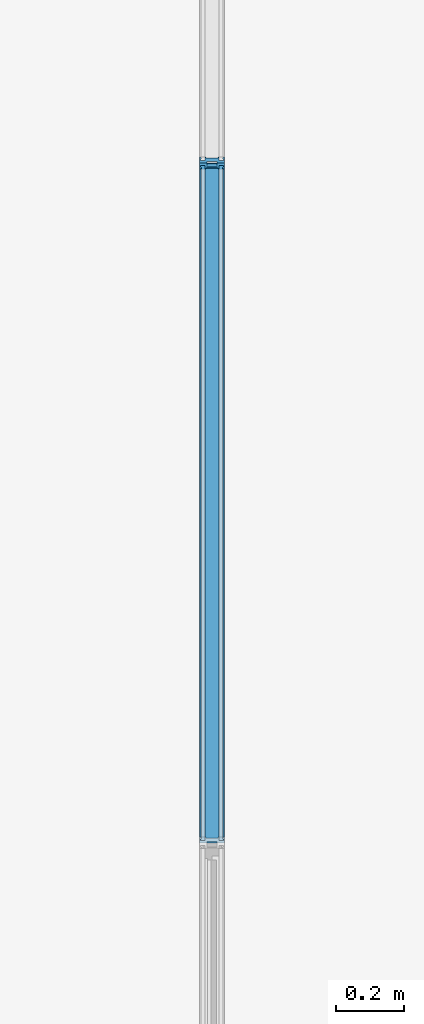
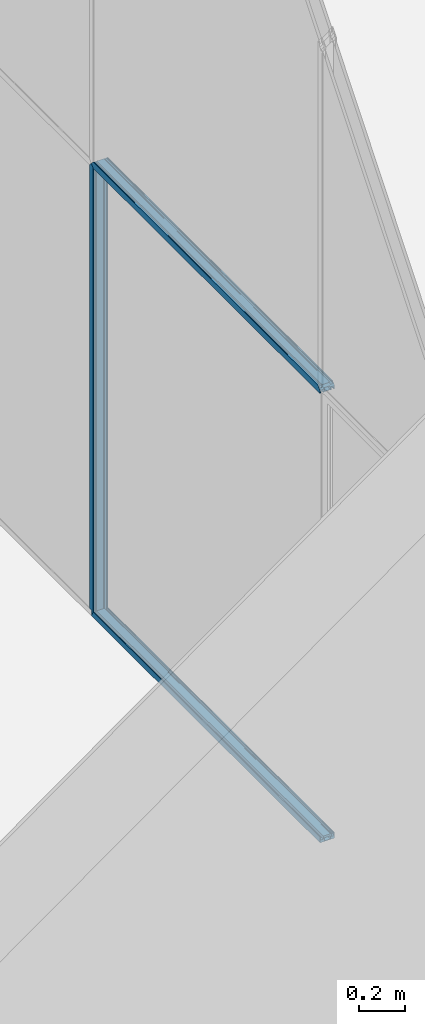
# One storey, part 70 of 246: 3 members, 1 element without a shape of its own.
"""IFC2X3 building model written with IfcOpenShell, lengths in millimetres."""

from ifc_helpers import new_model, entity, si_unit, converted_unit, derived_unit, money_unit, direction, frame, origin_with_axes, place, context, subcontext, project, spatial, faceted_brep, material, material_list, type_object, element, aggregate, save


model = new_model("IFC2X3")

# Units and contexts
model_context = context("Model", 3, precision=0.01, world=origin_with_axes(), true_north=direction((0.0, 1.0)))
body_context = subcontext(model_context, "Body", "Model", "MODEL_VIEW")
ifc_project = project(units=[si_unit("LENGTHUNIT", "METRE", prefix="MILLI"), si_unit("AREAUNIT", "SQUARE_METRE"), si_unit("VOLUMEUNIT", "CUBIC_METRE"), converted_unit("PLANEANGLEUNIT", "DEGREE", entity("IfcPlaneAngleMeasure", 0.0174532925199), si_unit("PLANEANGLEUNIT", "RADIAN"), dimensions=[0, 0, 0, 0, 0, 0, 0]), si_unit("SOLIDANGLEUNIT", "STERADIAN"), money_unit("EUR"), converted_unit("TIMEUNIT", "Year", entity("IfcTimeMeasure", 31556926.0), si_unit("TIMEUNIT", "SECOND"), dimensions=[0, 0, 1, 0, 0, 0, 0]), si_unit("MASSUNIT", "GRAM", prefix="KILO"), si_unit("THERMODYNAMICTEMPERATUREUNIT", "DEGREE_CELSIUS"), si_unit("LUMINOUSINTENSITYUNIT", "LUMEN"), si_unit("ENERGYUNIT", "JOULE", prefix="MEGA"), derived_unit("THERMALCONDUCTANCEUNIT", [(si_unit("POWERUNIT", "WATT"), 1), (si_unit("LENGTHUNIT", "METRE"), -1), (si_unit("THERMODYNAMICTEMPERATUREUNIT", "KELVIN"), -1)]), derived_unit("SPECIFICHEATCAPACITYUNIT", [(si_unit("ENERGYUNIT", "JOULE"), 1), (si_unit("MASSUNIT", "GRAM", prefix="KILO"), -1), (si_unit("THERMODYNAMICTEMPERATUREUNIT", "KELVIN"), -1)]), derived_unit("MASSDENSITYUNIT", [(si_unit("MASSUNIT", "GRAM", prefix="KILO"), 1), (si_unit("VOLUMEUNIT", "CUBIC_METRE"), -1)])], contexts=[model_context])

# Site, building, storey
site_placement = place(None, origin_with_axes())
site = spatial("IfcSite", under=ifc_project, at=site_placement, Name="L.Koidula tn 11b", CompositionType="ELEMENT")
building_placement = place(site_placement, origin_with_axes())
building = spatial("IfcBuilding", under=site, at=building_placement, Name="Rakvere Riigigümnaasium", CompositionType="ELEMENT")
storey_placement = place(building_placement, origin_with_axes())
storey = spatial("IfcBuildingStorey", under=building, at=storey_placement, Name="1.korrus 0,00", CompositionType="ELEMENT", Elevation=0.0)

# Curtain wall, members
curtain_wall_type = type_object("IfcCurtainWallType", Name="Curtain Wall Type", PredefinedType="NOTDEFINED")
curtain_wall_placement = place(storey_placement, frame((32835.0202258, 67589.2016838, 0.0), z_axis=(0.0, 0.0, 1.0), x_axis=(1.0, 0.0, 0.0)))
curtain_wall = element("IfcCurtainWall", 1, at=curtain_wall_placement, inside=storey, type_object=curtain_wall_type, Name="SKLF-02")
ifc_material_1 = material(Name="Klaasvill")
ifc_material_2 = material(Name="Teras RAL7012")
ifc_material_list = material_list([ifc_material_1, ifc_material_2])
member_type_1 = type_object("IfcMemberType", Name="Siseklaasfassaad-Servaprofiil-Doubleline30 30 x 42", PredefinedType="MULLION")
member_1_placement = place(curtain_wall_placement, frame((0.0, -2981.25, 0.0), z_axis=(0.0, -1.0, 0.0), x_axis=(0.0, 0.0, 1.0)))
member_1 = element("IfcMember", 2, at=member_1_placement, type_object=member_type_1, material=ifc_material_list, Name="Frame-Siseklaasf-167", ObjectType="MULLION", context=body_context, shape_type="Brep", body=[
    faceted_brep([(13.8499999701, 15.000000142, 7.84833717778), (13.8499999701, 29.0161444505, 7.84833717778), (13.8499999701, 29.0161444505, 1987.5), (13.8499999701, 15.000000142, 1987.5), (7.49999990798, 29.0161444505, 4.25000203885), (7.49999990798, 15.000000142, 4.25000203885), (7.49999990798, 29.0161444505, 1987.5), (7.49999990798, 15.000000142, 1987.5)], [[[0, 1, 2, 3]], [[4, 1, 0, 5]], [[1, 4, 6, 2]], [[3, 2, 6, 7]], [[5, 0, 3, 7]], [[4, 5, 7, 6]]]),
    faceted_brep([(28.4955493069, 27.0307503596, 16.1474858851), (28.7655837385, 28.0385325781, 16.3005054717), (28.7655837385, 28.0385325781, 1987.5), (28.4955493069, 27.0307503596, 1987.5), (28.5126239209, 29.0161444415, 16.1571615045), (27.75780152, 26.2930025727, 15.7294286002), (26.7500193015, 26.0229681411, 15.1583517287), (25.742237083, 26.2930025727, 14.5872748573), (25.004489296, 27.0307503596, 14.1692175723), (24.987414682, 29.0161444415, 14.159541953), (28.5126239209, 29.0161444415, 1987.5), (24.987414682, 29.0161444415, 1987.5), (25.004489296, 27.0307503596, 1987.5), (25.742237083, 26.2930025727, 1987.5), (26.7500193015, 26.0229681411, 1987.5), (27.75780152, 26.2930025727, 1987.5)], [[[0, 1, 2, 3]], [[4, 1, 0, 5, 6, 7, 8, 9]], [[1, 4, 10, 2]], [[3, 2, 10, 11, 12, 13, 14, 15]], [[5, 0, 3, 15]], [[6, 5, 15, 14]], [[7, 6, 14, 13]], [[8, 7, 13, 12]], [[9, 8, 12, 11]], [[4, 9, 11, 10]]]),
    faceted_brep([(13.8499999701, -39.0161445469, 7.84833717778), (13.8499999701, -24.9999997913, 7.84833717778), (13.8499999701, -24.9999997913, 1987.5), (13.8499999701, -39.0161445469, 1987.5), (7.49999990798, -24.9999997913, 4.25000203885), (7.49999990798, -39.0161445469, 4.25000203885), (7.49999990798, -24.9999997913, 1987.5), (7.49999990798, -39.0161445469, 1987.5)], [[[0, 1, 2, 3]], [[4, 1, 0, 5]], [[1, 4, 6, 2]], [[7, 3, 2, 6]], [[5, 0, 3, 7]], [[4, 5, 7, 6]]]),
    faceted_brep([(28.5126239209, -39.0161444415, 16.1571615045), (28.7655837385, -38.0385325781, 16.3005054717), (28.7655837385, -38.0385325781, 1987.5), (28.5126239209, -39.0161444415, 1987.5), (28.4955493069, -37.0307503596, 16.1474858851), (24.987414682, -39.0161444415, 14.159541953), (25.004489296, -37.0307503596, 14.1692175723), (25.742237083, -36.2930025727, 14.5872748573), (26.7500193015, -36.0229681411, 15.1583517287), (27.75780152, -36.2930025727, 15.7294286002), (28.4955493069, -37.0307503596, 1987.5), (27.75780152, -36.2930025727, 1987.5), (26.7500193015, -36.0229681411, 1987.5), (25.742237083, -36.2930025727, 1987.5), (25.004489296, -37.0307503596, 1987.5), (24.987414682, -39.0161444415, 1987.5)], [[[0, 1, 2, 3]], [[4, 1, 0, 5, 6, 7, 8, 9]], [[1, 4, 10, 2]], [[11, 12, 13, 14, 15, 3, 2, 10]], [[5, 0, 3, 15]], [[6, 5, 15, 14]], [[7, 6, 14, 13]], [[8, 7, 13, 12]], [[9, 8, 12, 11]], [[4, 9, 11, 10]]]),
    faceted_brep([(1.9999999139, 10.0000001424, 1.13333384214), (18.7999996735, 10.0000001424, 10.6533383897), (18.7999996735, 10.0000001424, 1987.5), (1.9999999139, 10.0000001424, 1987.5), (0.0, 12.0000000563, 0.0), (29.5999996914, 12.0000000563, 16.7733414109), (29.5999996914, -22.0000000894, 16.7733414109), (0.0, -22.0000000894, 0.0), (18.7999996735, -20.0000001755, 10.6533383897), (1.9999999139, -20.0000001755, 1.13333384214), (18.7999996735, -20.0000001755, 1987.5), (29.5999996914, -22.0000000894, 1987.5), (29.5999996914, 12.0000000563, 1987.5), (0.0, 12.0000000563, 1987.5), (0.0, -22.0000000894, 1987.5), (1.9999999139, -20.0000001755, 1987.5)], [[[0, 1, 2, 3]], [[4, 5, 6, 7], [8, 1, 0, 9]], [[1, 8, 10, 2]], [[11, 12, 13, 14], [2, 10, 15, 3]], [[9, 0, 3, 15]], [[5, 4, 13, 12]], [[6, 5, 12, 11]], [[7, 6, 11, 14]], [[4, 7, 14, 13]], [[8, 9, 15, 10]]]),
    faceted_brep([(30.0000193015, 29.0161444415, 17.0000193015), (30.0000193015, 32.0, 17.0000193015), (30.0000193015, 32.0, 1987.5), (30.0000193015, 29.0161444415, 1987.5), (0.0, 32.0, 0.0), (28.5126239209, 29.0161444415, 16.1571615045), (24.987414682, 29.0161444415, 14.159541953), (13.8499999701, 29.0161444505, 7.84833717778), (7.49999999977, 29.0161444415, 4.25000209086), (7.49999999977, 15.0, 4.25000209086), (13.8499999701, 15.000000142, 7.84833717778), (30.0000193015, 15.0, 17.0000193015), (30.0000193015, 12.0, 17.0000193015), (29.5999996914, 12.0000000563, 16.7733414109), (0.0, 12.0, 0.0), (0.0, 32.0, 1987.5), (0.0, 12.0, 1987.5), (29.5999996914, 12.0000000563, 1987.5), (30.0000193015, 12.0, 1987.5), (30.0000193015, 15.0, 1987.5), (13.8499999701, 15.000000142, 1987.5), (7.49999999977, 15.0, 1987.5), (7.49999999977, 29.0161444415, 1987.5), (13.8499999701, 29.0161444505, 1987.5), (24.987414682, 29.0161444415, 1987.5), (28.5126239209, 29.0161444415, 1987.5)], [[[0, 1, 2, 3]], [[4, 1, 0, 5, 6, 7, 8, 9, 10, 11, 12, 13, 14]], [[1, 4, 15, 2]], [[3, 2, 15, 16, 17, 18, 19, 20, 21, 22, 23, 24, 25]], [[5, 0, 3, 25]], [[6, 5, 25, 24]], [[7, 6, 24, 23]], [[8, 7, 23, 22]], [[9, 8, 22, 21]], [[10, 9, 21, 20]], [[11, 10, 20, 19]], [[12, 11, 19, 18]], [[13, 12, 18, 17]], [[14, 13, 17, 16]], [[4, 14, 16, 15]]]),
    faceted_brep([(30.0000193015, -25.0, 17.0000193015), (30.0000193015, -22.0, 17.0000193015), (30.0000193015, -22.0, 1987.5), (30.0000193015, -25.0, 1987.5), (29.5999996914, -22.0000000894, 16.7733414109), (13.8499999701, -24.9999997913, 7.84833717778), (7.49999999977, -25.0, 4.25000209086), (7.49999999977, -39.0161444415, 4.25000209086), (13.8499999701, -39.0161445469, 7.84833717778), (24.987414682, -39.0161444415, 14.159541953), (28.5126239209, -39.0161444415, 16.1571615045), (30.0000193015, -39.0161444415, 17.0000193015), (30.0000193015, -42.0, 17.0000193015), (0.0, -42.0, 0.0), (0.0, -22.0, 0.0), (29.5999996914, -22.0000000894, 1987.5), (0.0, -22.0, 1987.5), (0.0, -42.0, 1987.5), (30.0000193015, -42.0, 1987.5), (30.0000193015, -39.0161444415, 1987.5), (28.5126239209, -39.0161444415, 1987.5), (24.987414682, -39.0161444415, 1987.5), (13.8499999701, -39.0161445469, 1987.5), (7.49999999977, -39.0161444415, 1987.5), (7.49999999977, -25.0, 1987.5), (13.8499999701, -24.9999997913, 1987.5)], [[[0, 1, 2, 3]], [[4, 1, 0, 5, 6, 7, 8, 9, 10, 11, 12, 13, 14]], [[1, 4, 15, 2]], [[3, 2, 15, 16, 17, 18, 19, 20, 21, 22, 23, 24, 25]], [[5, 0, 3, 25]], [[6, 5, 25, 24]], [[7, 6, 24, 23]], [[8, 7, 23, 22]], [[9, 8, 22, 21]], [[10, 9, 21, 20]], [[11, 10, 20, 19]], [[12, 11, 19, 18]], [[13, 12, 18, 17]], [[14, 13, 17, 16]], [[4, 14, 16, 15]]]),
])
member_type_2 = type_object("IfcMemberType", Name="Siseklaasfassaad-Vaheprofiil-Doubleline30 34 x 42", PredefinedType="MULLION")
member_2_placement = place(curtain_wall_placement, frame((0.0, -2981.25, 0.0), z_axis=(0.0, 0.0, 1.0), x_axis=(0.0, 1.0, 0.0)))
member_2 = element("IfcMember", 3, at=member_2_placement, type_object=member_type_2, material=ifc_material_list, Name="Frame-Siseklaasf-065", ObjectType="MULLION", context=body_context, shape_type="Brep", body=[
    faceted_brep([(15.4955493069, 27.0307503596, 30.0000193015), (15.7655837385, 28.0385325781, 30.0000193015), (15.7655837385, 28.0385325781, 2384.23441626), (15.4955493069, 27.0307503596, 2384.50445069), (15.5126239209, 29.0161444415, 30.0000193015), (14.75780152, 26.2930025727, 30.0000193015), (13.7500193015, 26.0229681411, 30.0000193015), (12.742237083, 26.2930025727, 30.0000193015), (12.004489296, 27.0307503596, 30.0000193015), (11.987414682, 29.0161444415, 30.0000193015), (15.5126239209, 29.0161444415, 2384.48737608), (12.742237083, 26.2930025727, 2387.25776292), (13.7500193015, 26.0229681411, 2386.2499807), (14.75780152, 26.2930025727, 2385.24219848), (11.987414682, 29.0161444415, 2388.01258532), (12.004489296, 27.0307503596, 2387.9955107)], [[[0, 1, 2, 3]], [[4, 1, 0, 5, 6, 7, 8, 9]], [[1, 4, 10, 2]], [[11, 12, 13, 3, 2, 10, 14, 15]], [[5, 0, 3, 13]], [[6, 5, 13, 12]], [[7, 6, 12, 11]], [[8, 7, 11, 15]], [[9, 8, 15, 14]], [[4, 9, 14, 10]]]),
    faceted_brep([(11.987414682, -39.0161444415, 30.0000193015), (15.5126239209, -39.0161444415, 30.0000193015), (15.5126239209, -39.0161444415, 2384.48737608), (11.987414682, -39.0161444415, 2388.01258532), (15.4955493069, -37.0307503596, 30.0000193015), (11.7344548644, -38.0385325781, 30.0000193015), (12.004489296, -37.0307503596, 30.0000193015), (12.742237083, -36.2930025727, 30.0000193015), (13.7500193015, -36.0229681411, 30.0000193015), (14.75780152, -36.2930025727, 30.0000193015), (15.4955493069, -37.0307503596, 2384.50445069), (12.742237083, -36.2930025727, 2387.25776292), (12.004489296, -37.0307503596, 2387.9955107), (11.7344548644, -38.0385325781, 2388.26554514), (14.75780152, -36.2930025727, 2385.24219848), (13.7500193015, -36.0229681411, 2386.2499807)], [[[0, 1, 2, 3]], [[4, 1, 0, 5, 6, 7, 8, 9]], [[1, 4, 10, 2]], [[11, 12, 13, 3, 2, 10, 14, 15]], [[5, 0, 3, 13]], [[6, 5, 13, 12]], [[7, 6, 12, 11]], [[8, 7, 11, 15]], [[9, 8, 15, 14]], [[4, 9, 14, 10]]]),
    faceted_brep([(-12.004489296, 27.0307503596, 21.1843824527), (-11.7344548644, 28.0385325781, 20.7078513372), (-11.7344548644, 28.0385325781, 2388.26554514), (-12.004489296, 27.0307503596, 2387.9955107), (-11.987414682, 29.0161444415, 21.1542507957), (-12.742237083, 26.2930025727, 22.4862896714), (-13.7500193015, 26.0229681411, 24.2647280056), (-14.75780152, 26.2930025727, 26.0431663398), (-15.4955493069, 27.0307503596, 27.3450735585), (-15.7655837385, 28.0385325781, 27.8216046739), (-11.987414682, 29.0161444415, 2388.01258532), (-14.75780152, 26.2930025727, 2385.24219848), (-13.7500193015, 26.0229681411, 2386.2499807), (-12.742237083, 26.2930025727, 2387.25776292), (-15.7655837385, 28.0385325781, 2384.23441626), (-15.4955493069, 27.0307503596, 2384.50445069)], [[[0, 1, 2, 3]], [[4, 1, 0, 5, 6, 7, 8, 9]], [[1, 4, 10, 2]], [[11, 12, 13, 3, 2, 10, 14, 15]], [[5, 0, 3, 13]], [[6, 5, 13, 12]], [[7, 6, 12, 11]], [[8, 7, 11, 15]], [[9, 8, 15, 14]], [[4, 9, 14, 10]]]),
    faceted_brep([(-11.987414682, -39.0161444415, 21.1542507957), (-11.7344548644, -38.0385325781, 20.7078513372), (-11.7344548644, -38.0385325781, 2388.26554514), (-11.987414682, -39.0161444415, 2388.01258532), (-12.004489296, -37.0307503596, 21.1843824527), (-15.5126239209, -39.0161444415, 27.3752052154), (-15.4955493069, -37.0307503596, 27.3450735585), (-14.75780152, -36.2930025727, 26.0431663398), (-13.7500193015, -36.0229681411, 24.2647280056), (-12.742237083, -36.2930025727, 22.4862896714), (-12.004489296, -37.0307503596, 2387.9955107), (-14.75780152, -36.2930025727, 2385.24219848), (-15.4955493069, -37.0307503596, 2384.50445069), (-15.5126239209, -39.0161444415, 2384.48737608), (-12.742237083, -36.2930025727, 2387.25776292), (-13.7500193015, -36.0229681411, 2386.2499807)], [[[0, 1, 2, 3]], [[4, 1, 0, 5, 6, 7, 8, 9]], [[1, 4, 10, 2]], [[11, 12, 13, 3, 2, 10, 14, 15]], [[5, 0, 3, 13]], [[6, 5, 13, 12]], [[7, 6, 12, 11]], [[8, 7, 11, 15]], [[9, 8, 15, 14]], [[4, 9, 14, 10]]]),
    faceted_brep([(0.0, 10.0000001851, 0.0), (0.0, 10.0000001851, 30.0000193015), (4.0000003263, 10.0000001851, 30.0000193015), (4.0000003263, 10.0000001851, 2395.99999967), (0.0, 10.0000001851, 2400.0), (-12.8000002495, 10.0000001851, 2387.19999975), (-12.8000002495, 10.0000001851, 22.588224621), (0.0, 12.0000001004, 0.0), (0.0, 12.0000001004, 30.0000193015), (14.8000003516, 12.0000001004, 30.0000193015), (14.8000003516, -22.0000000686, 30.0000193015), (0.0, -22.0000000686, 30.0000193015), (0.0, -20.0000001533, 30.0000193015), (4.0000003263, -20.0000001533, 30.0000193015), (4.0000003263, -20.0000001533, 2395.99999967), (0.0, -20.0000001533, 2400.0), (0.0, -22.0000000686, 2400.0), (14.8000003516, -22.0000000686, 2385.19999965), (14.8000003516, 12.0000001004, 2385.19999965), (0.0, 12.0000001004, 2400.0), (-12.8000002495, -20.0000001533, 2387.19999975), (-14.8000001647, 12.0000001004, 2385.19999984), (-14.8000001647, -22.0000000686, 2385.19999984), (-12.8000002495, -20.0000001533, 22.588224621), (-14.8000001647, 12.0000001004, 26.1176344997), (0.0, -20.0000001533, 0.0), (0.0, -22.0000000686, 0.0), (-14.8000001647, -22.0000000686, 26.1176344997)], [[[0, 1, 2, 3, 4, 5, 6]], [[7, 8, 1, 0]], [[8, 9, 10, 11, 12, 13, 2, 1]], [[2, 13, 14, 3]], [[14, 15, 16, 17, 18, 19, 4, 3]], [[20, 5, 4, 19, 21, 22, 16, 15]], [[23, 6, 5, 20]], [[24, 7, 0, 6, 23, 25, 26, 27]], [[7, 24, 21, 19, 8]], [[9, 8, 19, 18]], [[10, 9, 18, 17]], [[11, 10, 17, 16]], [[25, 12, 11, 26]], [[25, 23, 20, 15, 14, 13, 12]], [[24, 27, 22, 21]], [[26, 11, 16, 22, 27]]]),
    faceted_brep([(17.0000193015, 29.0161446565, 30.0000193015), (17.0000193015, 32.0000000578, 30.0000193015), (17.0000193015, 32.0000000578, 2382.9999807), (17.0000193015, 29.0161446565, 2382.9999807), (0.0, 32.0000000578, 30.0000193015), (15.5126239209, 29.0161444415, 30.0000193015), (11.987414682, 29.0161444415, 30.0000193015), (7.50000002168, 29.0161446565, 30.0000193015), (7.50000002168, 15.0000000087, 30.0000193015), (17.0000193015, 15.0000000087, 30.0000193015), (17.0000193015, 12.0, 30.0000193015), (14.8000003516, 12.0000001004, 30.0000193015), (0.0, 12.0, 30.0000193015), (0.0, 32.0000000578, 2400.0), (7.50000002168, 29.0161446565, 2392.49999998), (11.987414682, 29.0161444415, 2388.01258532), (15.5126239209, 29.0161444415, 2384.48737608), (0.0, 12.0, 2400.0), (14.8000003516, 12.0000001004, 2385.19999965), (17.0000193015, 12.0, 2382.9999807), (17.0000193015, 15.0000000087, 2382.9999807), (7.50000002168, 15.0000000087, 2392.49999998)], [[[0, 1, 2, 3]], [[4, 1, 0, 5, 6, 7, 8, 9, 10, 11, 12]], [[1, 4, 13, 2]], [[14, 15, 16, 3, 2, 13, 17, 18, 19, 20, 21]], [[5, 0, 3, 16]], [[6, 5, 16, 15]], [[7, 6, 15, 14]], [[8, 7, 14, 21]], [[9, 8, 21, 20]], [[10, 9, 20, 19]], [[11, 10, 19, 18]], [[12, 11, 18, 17]], [[4, 12, 17, 13]]]),
    faceted_brep([(17.0000193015, -24.9999999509, 30.0000193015), (17.0000193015, -21.9999999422, 30.0000193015), (17.0000193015, -21.9999999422, 2382.9999807), (17.0000193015, -24.9999999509, 2382.9999807), (14.8000003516, -22.0000000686, 30.0000193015), (7.50000002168, -24.9999999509, 30.0000193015), (7.50000002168, -39.0161445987, 30.0000193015), (11.987414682, -39.0161444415, 30.0000193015), (15.5126239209, -39.0161444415, 30.0000193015), (17.0000193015, -39.0161445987, 30.0000193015), (17.0000193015, -42.0, 30.0000193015), (0.0, -42.0, 30.0000193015), (0.0, -21.9999999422, 30.0000193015), (14.8000003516, -22.0000000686, 2385.19999965), (11.987414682, -39.0161444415, 2388.01258532), (7.50000002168, -39.0161445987, 2392.49999998), (7.50000002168, -24.9999999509, 2392.49999998), (0.0, -21.9999999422, 2400.0), (0.0, -42.0, 2400.0), (17.0000193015, -42.0, 2382.9999807), (17.0000193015, -39.0161445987, 2382.9999807), (15.5126239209, -39.0161444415, 2384.48737608)], [[[0, 1, 2, 3]], [[4, 1, 0, 5, 6, 7, 8, 9, 10, 11, 12]], [[1, 4, 13, 2]], [[14, 15, 16, 3, 2, 13, 17, 18, 19, 20, 21]], [[5, 0, 3, 16]], [[6, 5, 16, 15]], [[7, 6, 15, 14]], [[8, 7, 14, 21]], [[9, 8, 21, 20]], [[10, 9, 20, 19]], [[11, 10, 19, 18]], [[12, 11, 18, 17]], [[4, 12, 17, 13]]]),
    faceted_brep([(0.0, 12.0, 0.0), (0.0, 32.0, 0.0), (0.0, 32.0, 2400.0), (0.0, 12.0, 2400.0), (-17.0000193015, 32.0, 30.0000193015), (-14.8000001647, 12.0000001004, 26.1176344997), (-17.0000193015, 12.0, 30.0000193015), (-17.0000193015, 15.0, 30.0000193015), (-7.49999999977, 15.0, 13.2352876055), (-7.49999999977, 29.0161444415, 13.2352876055), (-11.987414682, 29.0161444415, 21.1542507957), (-15.5126239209, 29.0161444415, 27.3752052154), (-17.0000193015, 29.0161444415, 30.0000193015), (-17.0000193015, 32.0, 2382.9999807), (-17.0000193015, 12.0, 2382.9999807), (-14.8000001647, 12.0000001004, 2385.19999984), (-17.0000193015, 29.0161444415, 2382.9999807), (-15.5126239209, 29.0161444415, 2384.48737608), (-11.987414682, 29.0161444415, 2388.01258532), (-7.49999999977, 29.0161444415, 2392.5), (-7.49999999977, 15.0, 2392.5), (-17.0000193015, 15.0, 2382.9999807)], [[[0, 1, 2, 3]], [[4, 1, 0, 5, 6, 7, 8, 9, 10, 11, 12]], [[1, 4, 13, 2]], [[14, 15, 3, 2, 13, 16, 17, 18, 19, 20, 21]], [[5, 0, 3, 15]], [[6, 5, 15, 14]], [[7, 6, 14, 21]], [[8, 7, 21, 20]], [[9, 8, 20, 19]], [[10, 9, 19, 18]], [[11, 10, 18, 17]], [[12, 11, 17, 16]], [[4, 12, 16, 13]]]),
    faceted_brep([(0.0, -42.0, 0.0), (0.0, -22.0, 0.0), (0.0, -22.0, 2400.0), (0.0, -42.0, 2400.0), (-14.8000001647, -22.0000000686, 26.1176344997), (-17.0000193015, -42.0, 30.0000193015), (-17.0000193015, -39.0161444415, 30.0000193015), (-15.5126239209, -39.0161444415, 27.3752052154), (-11.987414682, -39.0161444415, 21.1542507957), (-7.49999999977, -39.0161444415, 13.2352876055), (-7.49999999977, -25.0, 13.2352876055), (-17.0000193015, -25.0, 30.0000193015), (-17.0000193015, -22.0, 30.0000193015), (-14.8000001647, -22.0000000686, 2385.19999984), (-17.0000193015, -39.0161444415, 2382.9999807), (-17.0000193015, -42.0, 2382.9999807), (-17.0000193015, -22.0, 2382.9999807), (-17.0000193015, -25.0, 2382.9999807), (-7.49999999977, -25.0, 2392.5), (-7.49999999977, -39.0161444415, 2392.5), (-11.987414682, -39.0161444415, 2388.01258532), (-15.5126239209, -39.0161444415, 2384.48737608)], [[[0, 1, 2, 3]], [[4, 1, 0, 5, 6, 7, 8, 9, 10, 11, 12]], [[1, 4, 13, 2]], [[14, 15, 3, 2, 13, 16, 17, 18, 19, 20, 21]], [[5, 0, 3, 15]], [[6, 5, 15, 14]], [[7, 6, 14, 21]], [[8, 7, 21, 20]], [[9, 8, 20, 19]], [[10, 9, 19, 18]], [[11, 10, 18, 17]], [[12, 11, 17, 16]], [[4, 12, 16, 13]]]),
])
member_3_placement = place(curtain_wall_placement, frame((0.0, -2981.25, 2400.0), z_axis=(0.0, -1.0, 0.0), x_axis=(0.0, 0.0, 1.0)))
member_3 = element("IfcMember", 4, at=member_3_placement, type_object=member_type_2, material=ifc_material_list, Name="Frame-Siseklaasf-064", ObjectType="MULLION", context=body_context, shape_type="Brep", body=[
    faceted_brep([(15.4955493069, 27.0307503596, 15.4955493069), (15.7655837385, 28.0385325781, 15.7655837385), (15.7655837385, 28.0385325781, 1971.73441626), (15.4955493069, 27.0307503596, 1972.00445069), (15.5126239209, 29.0161444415, 15.5126239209), (14.75780152, 26.2930025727, 14.75780152), (13.7500193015, 26.0229681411, 13.7500193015), (12.742237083, 26.2930025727, 12.742237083), (12.004489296, 27.0307503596, 12.004489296), (11.987414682, 29.0161444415, 11.987414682), (15.5126239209, 29.0161444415, 1971.98737608), (12.742237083, 26.2930025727, 1974.75776292), (13.7500193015, 26.0229681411, 1973.7499807), (14.75780152, 26.2930025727, 1972.74219848), (11.987414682, 29.0161444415, 1975.51258532), (12.004489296, 27.0307503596, 1975.4955107)], [[[0, 1, 2, 3]], [[4, 1, 0, 5, 6, 7, 8, 9]], [[1, 4, 10, 2]], [[11, 12, 13, 3, 2, 10, 14, 15]], [[5, 0, 3, 13]], [[6, 5, 13, 12]], [[7, 6, 12, 11]], [[8, 7, 11, 15]], [[9, 8, 15, 14]], [[4, 9, 14, 10]]]),
    faceted_brep([(11.987414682, -39.0161444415, 11.987414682), (15.5126239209, -39.0161444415, 15.5126239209), (15.5126239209, -39.0161444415, 1971.98737608), (11.987414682, -39.0161444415, 1975.51258532), (15.4955493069, -37.0307503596, 15.4955493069), (11.7344548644, -38.0385325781, 11.7344548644), (12.004489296, -37.0307503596, 12.004489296), (12.742237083, -36.2930025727, 12.742237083), (13.7500193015, -36.0229681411, 13.7500193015), (14.75780152, -36.2930025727, 14.75780152), (15.4955493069, -37.0307503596, 1972.00445069), (12.742237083, -36.2930025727, 1974.75776292), (12.004489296, -37.0307503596, 1975.4955107), (11.7344548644, -38.0385325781, 1975.76554514), (14.75780152, -36.2930025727, 1972.74219848), (13.7500193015, -36.0229681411, 1973.7499807)], [[[0, 1, 2, 3]], [[4, 1, 0, 5, 6, 7, 8, 9]], [[1, 4, 10, 2]], [[11, 12, 13, 3, 2, 10, 14, 15]], [[5, 0, 3, 13]], [[6, 5, 13, 12]], [[7, 6, 12, 11]], [[8, 7, 11, 15]], [[9, 8, 15, 14]], [[4, 9, 14, 10]]]),
    faceted_brep([(-12.004489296, 27.0307503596, 12.004489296), (-11.7344548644, 28.0385325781, 11.7344548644), (-11.7344548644, 28.0385325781, 1987.5), (-12.004489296, 27.0307503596, 1987.5), (-11.987414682, 29.0161444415, 11.987414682), (-12.742237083, 26.2930025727, 12.742237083), (-13.7500193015, 26.0229681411, 13.7500193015), (-14.75780152, 26.2930025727, 14.75780152), (-15.4955493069, 27.0307503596, 15.4955493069), (-15.7655837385, 28.0385325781, 15.7655837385), (-11.987414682, 29.0161444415, 1987.5), (-12.742237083, 26.2930025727, 1987.5), (-15.7655837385, 28.0385325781, 1987.5), (-15.4955493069, 27.0307503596, 1987.5), (-14.75780152, 26.2930025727, 1987.5), (-13.7500193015, 26.0229681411, 1987.5)], [[[0, 1, 2, 3]], [[4, 1, 0, 5, 6, 7, 8, 9]], [[1, 4, 10, 2]], [[11, 3, 2, 10, 12, 13, 14, 15]], [[5, 0, 3, 11]], [[6, 5, 11, 15]], [[7, 6, 15, 14]], [[8, 7, 14, 13]], [[9, 8, 13, 12]], [[4, 9, 12, 10]]]),
    faceted_brep([(-11.987414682, -39.0161444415, 11.987414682), (-11.7344548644, -38.0385325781, 11.7344548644), (-11.7344548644, -38.0385325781, 1987.5), (-11.987414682, -39.0161444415, 1987.5), (-12.004489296, -37.0307503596, 12.004489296), (-15.5126239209, -39.0161444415, 15.5126239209), (-15.4955493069, -37.0307503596, 15.4955493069), (-14.75780152, -36.2930025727, 14.75780152), (-13.7500193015, -36.0229681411, 13.7500193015), (-12.742237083, -36.2930025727, 12.742237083), (-12.004489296, -37.0307503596, 1987.5), (-12.742237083, -36.2930025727, 1987.5), (-13.7500193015, -36.0229681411, 1987.5), (-14.75780152, -36.2930025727, 1987.5), (-15.4955493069, -37.0307503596, 1987.5), (-15.5126239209, -39.0161444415, 1987.5)], [[[0, 1, 2, 3]], [[4, 1, 0, 5, 6, 7, 8, 9]], [[1, 4, 10, 2]], [[11, 12, 13, 14, 15, 3, 2, 10]], [[5, 0, 3, 15]], [[6, 5, 15, 14]], [[7, 6, 14, 13]], [[8, 7, 13, 12]], [[9, 8, 12, 11]], [[4, 9, 11, 10]]]),
    faceted_brep([(-12.8000002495, 10.0000001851, 12.8000002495), (0.0, 10.0000001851, 0.0), (4.0000003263, 10.0000001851, 4.0000003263), (4.0000003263, 10.0000001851, 1983.49999967), (0.0, 10.0000001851, 1987.5), (-12.8000002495, 10.0000001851, 1987.5), (-14.8000001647, 12.0000001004, 14.8000001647), (0.0, 12.0000001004, 0.0), (-12.8000002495, -20.0000001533, 12.8000002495), (0.0, -20.0000001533, 0.0), (0.0, -22.0000000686, 0.0), (-14.8000001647, -22.0000000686, 14.8000001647), (14.8000003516, 12.0000001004, 14.8000003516), (14.8000003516, -22.0000000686, 14.8000003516), (4.0000003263, -20.0000001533, 4.0000003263), (4.0000003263, -20.0000001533, 1983.49999967), (0.0, -20.0000001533, 1987.5), (0.0, -22.0000000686, 1987.5), (14.8000003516, -22.0000000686, 1972.69999965), (14.8000003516, 12.0000001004, 1972.69999965), (0.0, 12.0000001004, 1987.5), (-12.8000002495, -20.0000001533, 1987.5), (-14.8000001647, 12.0000001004, 1987.5), (-14.8000001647, -22.0000000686, 1987.5)], [[[0, 1, 2, 3, 4, 5]], [[6, 7, 1, 0, 8, 9, 10, 11]], [[7, 12, 13, 10, 9, 14, 2, 1]], [[2, 14, 15, 3]], [[15, 16, 17, 18, 19, 20, 4, 3]], [[16, 21, 5, 4, 20, 22, 23, 17]], [[8, 0, 5, 21]], [[7, 6, 22, 20]], [[9, 8, 21, 16, 15, 14]], [[11, 10, 17, 23]], [[6, 11, 23, 22]], [[12, 7, 20, 19]], [[13, 12, 19, 18]], [[10, 13, 18, 17]]]),
    faceted_brep([(17.0000193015, 29.0161446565, 17.0000193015), (17.0000193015, 32.0000000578, 17.0000193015), (17.0000193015, 32.0000000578, 1970.4999807), (17.0000193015, 29.0161446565, 1970.4999807), (0.0, 32.0000000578, 0.0), (15.5126239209, 29.0161444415, 15.5126239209), (11.987414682, 29.0161444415, 11.987414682), (7.50000002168, 29.0161446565, 7.50000002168), (7.50000002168, 15.0000000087, 7.50000002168), (17.0000193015, 15.0000000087, 17.0000193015), (17.0000193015, 12.0, 17.0000193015), (14.8000003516, 12.0000001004, 14.8000003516), (0.0, 12.0, 0.0), (0.0, 32.0000000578, 1987.5), (7.50000002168, 29.0161446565, 1979.99999998), (11.987414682, 29.0161444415, 1975.51258532), (15.5126239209, 29.0161444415, 1971.98737608), (0.0, 12.0, 1987.5), (14.8000003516, 12.0000001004, 1972.69999965), (17.0000193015, 12.0, 1970.4999807), (17.0000193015, 15.0000000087, 1970.4999807), (7.50000002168, 15.0000000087, 1979.99999998)], [[[0, 1, 2, 3]], [[4, 1, 0, 5, 6, 7, 8, 9, 10, 11, 12]], [[1, 4, 13, 2]], [[14, 15, 16, 3, 2, 13, 17, 18, 19, 20, 21]], [[5, 0, 3, 16]], [[6, 5, 16, 15]], [[7, 6, 15, 14]], [[8, 7, 14, 21]], [[9, 8, 21, 20]], [[10, 9, 20, 19]], [[11, 10, 19, 18]], [[12, 11, 18, 17]], [[4, 12, 17, 13]]]),
    faceted_brep([(17.0000193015, -24.9999999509, 17.0000193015), (17.0000193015, -21.9999999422, 17.0000193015), (17.0000193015, -21.9999999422, 1970.4999807), (17.0000193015, -24.9999999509, 1970.4999807), (14.8000003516, -22.0000000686, 14.8000003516), (7.50000002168, -24.9999999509, 7.50000002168), (7.50000002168, -39.0161445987, 7.50000002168), (11.987414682, -39.0161444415, 11.987414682), (15.5126239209, -39.0161444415, 15.5126239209), (17.0000193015, -39.0161445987, 17.0000193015), (17.0000193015, -42.0, 17.0000193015), (0.0, -42.0, 0.0), (0.0, -21.9999999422, 0.0), (14.8000003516, -22.0000000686, 1972.69999965), (11.987414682, -39.0161444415, 1975.51258532), (7.50000002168, -39.0161445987, 1979.99999998), (7.50000002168, -24.9999999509, 1979.99999998), (0.0, -21.9999999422, 1987.5), (0.0, -42.0, 1987.5), (17.0000193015, -42.0, 1970.4999807), (17.0000193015, -39.0161445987, 1970.4999807), (15.5126239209, -39.0161444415, 1971.98737608)], [[[0, 1, 2, 3]], [[4, 1, 0, 5, 6, 7, 8, 9, 10, 11, 12]], [[1, 4, 13, 2]], [[14, 15, 16, 3, 2, 13, 17, 18, 19, 20, 21]], [[5, 0, 3, 16]], [[6, 5, 16, 15]], [[7, 6, 15, 14]], [[8, 7, 14, 21]], [[9, 8, 21, 20]], [[10, 9, 20, 19]], [[11, 10, 19, 18]], [[12, 11, 18, 17]], [[4, 12, 17, 13]]]),
    faceted_brep([(0.0, 12.0, 0.0), (0.0, 32.0, 0.0), (0.0, 32.0, 1987.5), (0.0, 12.0, 1987.5), (-17.0000193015, 32.0, 17.0000193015), (-14.8000001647, 12.0000001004, 14.8000001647), (-17.0000193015, 12.0, 17.0000193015), (-17.0000193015, 15.0, 17.0000193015), (-7.49999999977, 15.0, 7.49999999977), (-7.49999999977, 29.0161444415, 7.49999999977), (-11.987414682, 29.0161444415, 11.987414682), (-15.5126239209, 29.0161444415, 15.5126239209), (-17.0000193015, 29.0161444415, 17.0000193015), (-17.0000193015, 32.0, 1987.5), (-17.0000193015, 15.0, 1987.5), (-17.0000193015, 12.0, 1987.5), (-14.8000001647, 12.0000001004, 1987.5), (-17.0000193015, 29.0161444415, 1987.5), (-15.5126239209, 29.0161444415, 1987.5), (-11.987414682, 29.0161444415, 1987.5), (-7.49999999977, 29.0161444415, 1987.5), (-7.49999999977, 15.0, 1987.5)], [[[0, 1, 2, 3]], [[4, 1, 0, 5, 6, 7, 8, 9, 10, 11, 12]], [[1, 4, 13, 2]], [[14, 15, 16, 3, 2, 13, 17, 18, 19, 20, 21]], [[5, 0, 3, 16]], [[6, 5, 16, 15]], [[7, 6, 15, 14]], [[8, 7, 14, 21]], [[9, 8, 21, 20]], [[10, 9, 20, 19]], [[11, 10, 19, 18]], [[12, 11, 18, 17]], [[4, 12, 17, 13]]]),
    faceted_brep([(0.0, -42.0, 0.0), (0.0, -22.0, 0.0), (0.0, -22.0, 1987.5), (0.0, -42.0, 1987.5), (-14.8000001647, -22.0000000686, 14.8000001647), (-17.0000193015, -42.0, 17.0000193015), (-17.0000193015, -39.0161444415, 17.0000193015), (-15.5126239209, -39.0161444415, 15.5126239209), (-11.987414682, -39.0161444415, 11.987414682), (-7.49999999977, -39.0161444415, 7.49999999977), (-7.49999999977, -25.0, 7.49999999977), (-17.0000193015, -25.0, 17.0000193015), (-17.0000193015, -22.0, 17.0000193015), (-14.8000001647, -22.0000000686, 1987.5), (-17.0000193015, -39.0161444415, 1987.5), (-17.0000193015, -42.0, 1987.5), (-17.0000193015, -22.0, 1987.5), (-17.0000193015, -25.0, 1987.5), (-7.49999999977, -25.0, 1987.5), (-7.49999999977, -39.0161444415, 1987.5), (-11.987414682, -39.0161444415, 1987.5), (-15.5126239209, -39.0161444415, 1987.5)], [[[0, 1, 2, 3]], [[4, 1, 0, 5, 6, 7, 8, 9, 10, 11, 12]], [[1, 4, 13, 2]], [[14, 15, 3, 2, 13, 16, 17, 18, 19, 20, 21]], [[5, 0, 3, 15]], [[6, 5, 15, 14]], [[7, 6, 14, 21]], [[8, 7, 21, 20]], [[9, 8, 20, 19]], [[10, 9, 19, 18]], [[11, 10, 18, 17]], [[12, 11, 17, 16]], [[4, 12, 16, 13]]]),
])
aggregate(curtain_wall, [member_2, member_1, member_3])

save(model, "model.ifc")
